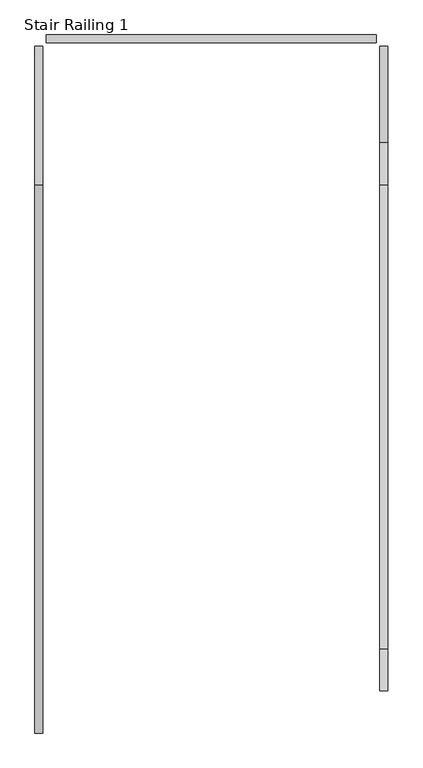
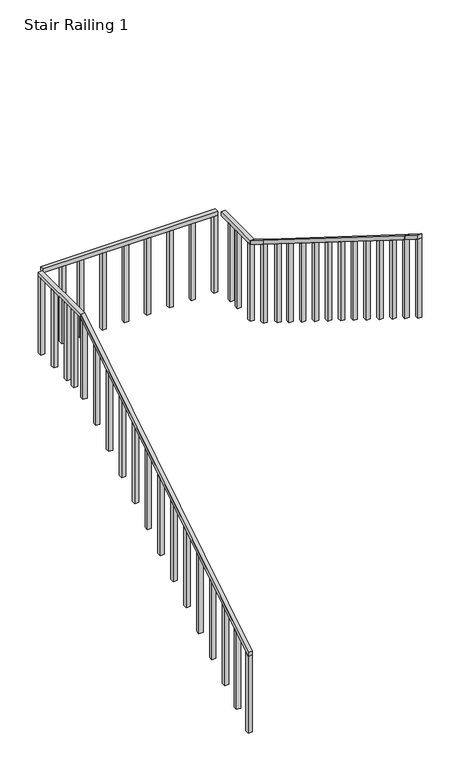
"""IFC4 building model written with IfcOpenShell, lengths in millimetres: railing geometry, Stair Railing 1."""

from ifc_helpers import new_model, si_unit, frame, origin, place, context, project, spatial, polyline, outline, extrude, source, transform, mapped, element, save


def stair_railing_1_f91c0f70(model_context):
    return source(origin(), model_context, "Body", "SweptSolid", [
        extrude(outline(polyline([(42823.1018942, 13727.2888889), (42823.1018942, 13676.4888889), (39190.9018942, 11401.7777778), (39190.9018942, 11452.5777778), (42823.1018942, 13727.2888889)])), frame((-115070.173517, 0.0, 0.0), z_axis=(1.0, 0.0, 0.0), x_axis=(0.0, 1.0, 0.0)), (0.0, 0.0, 1.0), 50.8),
        extrude(outline(polyline([(39241.7018942, 11433.5919192), (39241.7018942, 10385.7777778), (39190.9018942, 10385.7777778), (39190.9018942, 11401.7777778), (39241.7018942, 11433.5919192)])), frame((-115070.173517, 0.0, 0.0), z_axis=(1.0, 0.0, 0.0), x_axis=(0.0, 1.0, 0.0)), (0.0, 0.0, 1.0), 50.8),
        extrude(outline(polyline([(39495.7018942, 11592.6626263), (39495.7018942, 10544.8484848), (39444.9018942, 10544.8484848), (39444.9018942, 11560.8484848), (39495.7018942, 11592.6626263)])), frame((-115070.173517, 0.0, 0.0), z_axis=(1.0, 0.0, 0.0), x_axis=(0.0, 1.0, 0.0)), (0.0, 0.0, 1.0), 50.8),
        extrude(outline(polyline([(39749.7018942, 11751.7333333), (39749.7018942, 10703.9191919), (39698.9018942, 10703.9191919), (39698.9018942, 11719.9191919), (39749.7018942, 11751.7333333)])), frame((-115070.173517, 0.0, 0.0), z_axis=(1.0, 0.0, 0.0), x_axis=(0.0, 1.0, 0.0)), (0.0, 0.0, 1.0), 50.8),
        extrude(outline(polyline([(40029.1018942, 11926.7111111), (40029.1018942, 10878.8969697), (39978.3018942, 10878.8969697), (39978.3018942, 11894.8969697), (40029.1018942, 11926.7111111)])), frame((-115070.173517, 0.0, 0.0), z_axis=(1.0, 0.0, 0.0), x_axis=(0.0, 1.0, 0.0)), (0.0, 0.0, 1.0), 50.8),
        extrude(outline(polyline([(40308.5018942, 12101.6888889), (40308.5018942, 11053.8747475), (40257.7018942, 11053.8747475), (40257.7018942, 12069.8747475), (40308.5018942, 12101.6888889)])), frame((-115070.173517, 0.0, 0.0), z_axis=(1.0, 0.0, 0.0), x_axis=(0.0, 1.0, 0.0)), (0.0, 0.0, 1.0), 50.8),
        extrude(outline(polyline([(40587.9018942, 12276.6666667), (40587.9018942, 11228.8525253), (40537.1018942, 11228.8525253), (40537.1018942, 12244.8525253), (40587.9018942, 12276.6666667)])), frame((-115070.173517, 0.0, 0.0), z_axis=(1.0, 0.0, 0.0), x_axis=(0.0, 1.0, 0.0)), (0.0, 0.0, 1.0), 50.8),
        extrude(outline(polyline([(40867.3018942, 12451.6444444), (40867.3018942, 11403.830303), (40816.5018942, 11403.830303), (40816.5018942, 12419.830303), (40867.3018942, 12451.6444444)])), frame((-115070.173517, 0.0, 0.0), z_axis=(1.0, 0.0, 0.0), x_axis=(0.0, 1.0, 0.0)), (0.0, 0.0, 1.0), 50.8),
        extrude(outline(polyline([(41146.7018942, 12626.6222222), (41146.7018942, 11578.8080808), (41095.9018942, 11578.8080808), (41095.9018942, 12594.8080808), (41146.7018942, 12626.6222222)])), frame((-115070.173517, 0.0, 0.0), z_axis=(1.0, 0.0, 0.0), x_axis=(0.0, 1.0, 0.0)), (0.0, 0.0, 1.0), 50.8),
        extrude(outline(polyline([(41426.1018942, 12801.6), (41426.1018942, 11753.7858586), (41375.3018942, 11753.7858586), (41375.3018942, 12769.7858586), (41426.1018942, 12801.6)])), frame((-115070.173517, 0.0, 0.0), z_axis=(1.0, 0.0, 0.0), x_axis=(0.0, 1.0, 0.0)), (0.0, 0.0, 1.0), 50.8),
        extrude(outline(polyline([(41705.5018942, 12976.5777778), (41705.5018942, 11928.7636364), (41654.7018942, 11928.7636364), (41654.7018942, 12944.7636364), (41705.5018942, 12976.5777778)])), frame((-115070.173517, 0.0, 0.0), z_axis=(1.0, 0.0, 0.0), x_axis=(0.0, 1.0, 0.0)), (0.0, 0.0, 1.0), 50.8),
        extrude(outline(polyline([(41984.9018942, 13151.5555556), (41984.9018942, 12103.7414141), (41934.1018942, 12103.7414141), (41934.1018942, 13119.7414141), (41984.9018942, 13151.5555556)])), frame((-115070.173517, 0.0, 0.0), z_axis=(1.0, 0.0, 0.0), x_axis=(0.0, 1.0, 0.0)), (0.0, 0.0, 1.0), 50.8),
        extrude(outline(polyline([(42264.3018942, 13326.5333333), (42264.3018942, 12278.7191919), (42213.5018942, 12278.7191919), (42213.5018942, 13294.7191919), (42264.3018942, 13326.5333333)])), frame((-115070.173517, 0.0, 0.0), z_axis=(1.0, 0.0, 0.0), x_axis=(0.0, 1.0, 0.0)), (0.0, 0.0, 1.0), 50.8),
        extrude(outline(polyline([(42543.7018942, 13501.5111111), (42543.7018942, 12453.6969697), (42492.9018942, 12453.6969697), (42492.9018942, 13469.6969697), (42543.7018942, 13501.5111111)])), frame((-115070.173517, 0.0, 0.0), z_axis=(1.0, 0.0, 0.0), x_axis=(0.0, 1.0, 0.0)), (0.0, 0.0, 1.0), 50.8),
        extrude(outline(polyline([(42823.1018942, 13676.4888889), (42823.1018942, 12628.6747475), (42772.3018942, 12628.6747475), (42772.3018942, 13644.6747475), (42823.1018942, 13676.4888889)])), frame((-115070.173517, 0.0, 0.0), z_axis=(1.0, 0.0, 0.0), x_axis=(0.0, 1.0, 0.0)), (0.0, 0.0, 1.0), 50.8),
        extrude(outline(polyline([(-115070.173517, 43737.5018942), (-115019.373517, 43737.5018942), (-115019.373517, 42823.1018942), (-115070.173517, 42823.1018942), (-115070.173517, 43737.5018942)])), frame((0.0, 0.0, 13676.4888889), z_axis=(0.0, 0.0, 1.0), x_axis=(1.0, 0.0, 0.0)), (0.0, 0.0, 1.0), 50.8),
        extrude(outline(polyline([(-115019.373517, 42975.5018942), (-115070.173517, 42975.5018942), (-115070.173517, 43026.3018942), (-115019.373517, 43026.3018942), (-115019.373517, 42975.5018942)])), frame((0.0, 0.0, 12660.4888889), z_axis=(0.0, 0.0, 1.0), x_axis=(1.0, 0.0, 0.0)), (0.0, 0.0, 1.0), 1016.0),
        extrude(outline(polyline([(-115019.373517, 43127.9018942), (-115070.173517, 43127.9018942), (-115070.173517, 43178.7018942), (-115019.373517, 43178.7018942), (-115019.373517, 43127.9018942)])), frame((0.0, 0.0, 12660.4888889), z_axis=(0.0, 0.0, 1.0), x_axis=(1.0, 0.0, 0.0)), (0.0, 0.0, 1.0), 1016.0),
        extrude(outline(polyline([(-115019.373517, 43407.3018942), (-115070.173517, 43407.3018942), (-115070.173517, 43458.1018942), (-115019.373517, 43458.1018942), (-115019.373517, 43407.3018942)])), frame((0.0, 0.0, 12660.4888889), z_axis=(0.0, 0.0, 1.0), x_axis=(1.0, 0.0, 0.0)), (0.0, 0.0, 1.0), 1016.0),
        extrude(outline(polyline([(-115019.373517, 43686.7018942), (-115070.173517, 43686.7018942), (-115070.173517, 43737.5018942), (-115019.373517, 43737.5018942), (-115019.373517, 43686.7018942)])), frame((0.0, 0.0, 12660.4888889), z_axis=(0.0, 0.0, 1.0), x_axis=(1.0, 0.0, 0.0)), (0.0, 0.0, 1.0), 1016.0),
        extrude(outline(polyline([(-112810.6492148, 43813.7018942), (-112810.6492148, 43762.9018942), (-114993.973517, 43762.9018942), (-114993.973517, 43813.7018942), (-112810.6492148, 43813.7018942)])), frame((0.0, 0.0, 13676.4888889), z_axis=(0.0, 0.0, 1.0), x_axis=(1.0, 0.0, 0.0)), (0.0, 0.0, 1.0), 50.8),
        extrude(outline(polyline([(-114765.9113659, 43762.9018942), (-114765.9113659, 43813.7018942), (-114715.1113659, 43813.7018942), (-114715.1113659, 43762.9018942), (-114765.9113659, 43762.9018942)])), frame((0.0, 0.0, 12660.4888889), z_axis=(0.0, 0.0, 1.0), x_axis=(1.0, 0.0, 0.0)), (0.0, 0.0, 1.0), 1016.0),
        extrude(outline(polyline([(-114537.8492148, 43762.9018942), (-114537.8492148, 43813.7018942), (-114487.0492148, 43813.7018942), (-114487.0492148, 43762.9018942), (-114537.8492148, 43762.9018942)])), frame((0.0, 0.0, 12660.4888889), z_axis=(0.0, 0.0, 1.0), x_axis=(1.0, 0.0, 0.0)), (0.0, 0.0, 1.0), 1016.0),
        extrude(outline(polyline([(-114258.4492148, 43762.9018942), (-114258.4492148, 43813.7018942), (-114207.6492148, 43813.7018942), (-114207.6492148, 43762.9018942), (-114258.4492148, 43762.9018942)])), frame((0.0, 0.0, 12660.4888889), z_axis=(0.0, 0.0, 1.0), x_axis=(1.0, 0.0, 0.0)), (0.0, 0.0, 1.0), 1016.0),
        extrude(outline(polyline([(-113979.0492148, 43762.9018942), (-113979.0492148, 43813.7018942), (-113928.2492148, 43813.7018942), (-113928.2492148, 43762.9018942), (-113979.0492148, 43762.9018942)])), frame((0.0, 0.0, 12660.4888889), z_axis=(0.0, 0.0, 1.0), x_axis=(1.0, 0.0, 0.0)), (0.0, 0.0, 1.0), 1016.0),
        extrude(outline(polyline([(-113699.6492148, 43762.9018942), (-113699.6492148, 43813.7018942), (-113648.8492148, 43813.7018942), (-113648.8492148, 43762.9018942), (-113699.6492148, 43762.9018942)])), frame((0.0, 0.0, 12660.4888889), z_axis=(0.0, 0.0, 1.0), x_axis=(1.0, 0.0, 0.0)), (0.0, 0.0, 1.0), 1016.0),
        extrude(outline(polyline([(-113420.2492148, 43762.9018942), (-113420.2492148, 43813.7018942), (-113369.4492148, 43813.7018942), (-113369.4492148, 43762.9018942), (-113420.2492148, 43762.9018942)])), frame((0.0, 0.0, 12660.4888889), z_axis=(0.0, 0.0, 1.0), x_axis=(1.0, 0.0, 0.0)), (0.0, 0.0, 1.0), 1016.0),
        extrude(outline(polyline([(-113140.8492148, 43762.9018942), (-113140.8492148, 43813.7018942), (-113090.0492148, 43813.7018942), (-113090.0492148, 43762.9018942), (-113140.8492148, 43762.9018942)])), frame((0.0, 0.0, 12660.4888889), z_axis=(0.0, 0.0, 1.0), x_axis=(1.0, 0.0, 0.0)), (0.0, 0.0, 1.0), 1016.0),
        extrude(outline(polyline([(-112861.4492148, 43762.9018942), (-112861.4492148, 43813.7018942), (-112810.6492148, 43813.7018942), (-112810.6492148, 43762.9018942), (-112861.4492148, 43762.9018942)])), frame((0.0, 0.0, 12660.4888889), z_axis=(0.0, 0.0, 1.0), x_axis=(1.0, 0.0, 0.0)), (0.0, 0.0, 1.0), 1016.0),
        extrude(outline(polyline([(-112734.4492148, 43102.5018942), (-112785.2492148, 43102.5018942), (-112785.2492148, 43737.5018942), (-112734.4492148, 43737.5018942), (-112734.4492148, 43102.5018942)])), frame((0.0, 0.0, 13676.4888889), z_axis=(0.0, 0.0, 1.0), x_axis=(1.0, 0.0, 0.0)), (0.0, 0.0, 1.0), 50.8),
        extrude(outline(polyline([(-112785.2492148, 43585.1018942), (-112734.4492148, 43585.1018942), (-112734.4492148, 43534.3018942), (-112785.2492148, 43534.3018942), (-112785.2492148, 43585.1018942)])), frame((0.0, 0.0, 12660.4888889), z_axis=(0.0, 0.0, 1.0), x_axis=(1.0, 0.0, 0.0)), (0.0, 0.0, 1.0), 1016.0),
        extrude(outline(polyline([(-112785.2492148, 43432.7018942), (-112734.4492148, 43432.7018942), (-112734.4492148, 43381.9018942), (-112785.2492148, 43381.9018942), (-112785.2492148, 43432.7018942)])), frame((0.0, 0.0, 12660.4888889), z_axis=(0.0, 0.0, 1.0), x_axis=(1.0, 0.0, 0.0)), (0.0, 0.0, 1.0), 1016.0),
        extrude(outline(polyline([(-112785.2492148, 43153.3018942), (-112734.4492148, 43153.3018942), (-112734.4492148, 43102.5018942), (-112785.2492148, 43102.5018942), (-112785.2492148, 43153.3018942)])), frame((0.0, 0.0, 12660.4888889), z_axis=(0.0, 0.0, 1.0), x_axis=(1.0, 0.0, 0.0)), (0.0, 0.0, 1.0), 1016.0),
        extrude(outline(polyline([(42823.1018942, 13851.4666667), (42823.1018942, 13902.2666667), (43102.5018942, 13727.2888889), (43102.5018942, 13676.4888889), (42823.1018942, 13851.4666667)])), frame((-112785.2492148, 0.0, 0.0), z_axis=(1.0, 0.0, 0.0), x_axis=(0.0, 1.0, 0.0)), (0.0, 0.0, 1.0), 50.8),
        extrude(outline(polyline([(42873.9018942, 13819.6525253), (42873.9018942, 12803.6525253), (42823.1018942, 12803.6525253), (42823.1018942, 13851.4666667), (42873.9018942, 13819.6525253)])), frame((-112785.2492148, 0.0, 0.0), z_axis=(1.0, 0.0, 0.0), x_axis=(0.0, 1.0, 0.0)), (0.0, 0.0, 1.0), 50.8),
        extrude(outline(polyline([(39749.7018942, 15776.2222222), (39749.7018942, 15827.0222222), (42823.1018942, 13902.2666667), (42823.1018942, 13851.4666667), (39749.7018942, 15776.2222222)])), frame((-112785.2492148, 0.0, 0.0), z_axis=(1.0, 0.0, 0.0), x_axis=(0.0, 1.0, 0.0)), (0.0, 0.0, 1.0), 50.8),
        extrude(outline(polyline([(42569.1018942, 14010.5373737), (42569.1018942, 12994.5373737), (42518.3018942, 12994.5373737), (42518.3018942, 14042.3515152), (42569.1018942, 14010.5373737)])), frame((-112785.2492148, 0.0, 0.0), z_axis=(1.0, 0.0, 0.0), x_axis=(0.0, 1.0, 0.0)), (0.0, 0.0, 1.0), 50.8),
        extrude(outline(polyline([(42315.1018942, 14169.6080808), (42315.1018942, 13153.6080808), (42264.3018942, 13153.6080808), (42264.3018942, 14201.4222222), (42315.1018942, 14169.6080808)])), frame((-112785.2492148, 0.0, 0.0), z_axis=(1.0, 0.0, 0.0), x_axis=(0.0, 1.0, 0.0)), (0.0, 0.0, 1.0), 50.8),
        extrude(outline(polyline([(42035.7018942, 14344.5858586), (42035.7018942, 13328.5858586), (41984.9018942, 13328.5858586), (41984.9018942, 14376.4), (42035.7018942, 14344.5858586)])), frame((-112785.2492148, 0.0, 0.0), z_axis=(1.0, 0.0, 0.0), x_axis=(0.0, 1.0, 0.0)), (0.0, 0.0, 1.0), 50.8),
        extrude(outline(polyline([(41756.3018942, 14519.5636364), (41756.3018942, 13503.5636364), (41705.5018942, 13503.5636364), (41705.5018942, 14551.3777778), (41756.3018942, 14519.5636364)])), frame((-112785.2492148, 0.0, 0.0), z_axis=(1.0, 0.0, 0.0), x_axis=(0.0, 1.0, 0.0)), (0.0, 0.0, 1.0), 50.8),
        extrude(outline(polyline([(41476.9018942, 14694.5414141), (41476.9018942, 13678.5414141), (41426.1018942, 13678.5414141), (41426.1018942, 14726.3555556), (41476.9018942, 14694.5414141)])), frame((-112785.2492148, 0.0, 0.0), z_axis=(1.0, 0.0, 0.0), x_axis=(0.0, 1.0, 0.0)), (0.0, 0.0, 1.0), 50.8),
        extrude(outline(polyline([(41197.5018942, 14869.5191919), (41197.5018942, 13853.5191919), (41146.7018942, 13853.5191919), (41146.7018942, 14901.3333333), (41197.5018942, 14869.5191919)])), frame((-112785.2492148, 0.0, 0.0), z_axis=(1.0, 0.0, 0.0), x_axis=(0.0, 1.0, 0.0)), (0.0, 0.0, 1.0), 50.8),
        extrude(outline(polyline([(40918.1018942, 15044.4969697), (40918.1018942, 14028.4969697), (40867.3018942, 14028.4969697), (40867.3018942, 15076.3111111), (40918.1018942, 15044.4969697)])), frame((-112785.2492148, 0.0, 0.0), z_axis=(1.0, 0.0, 0.0), x_axis=(0.0, 1.0, 0.0)), (0.0, 0.0, 1.0), 50.8),
        extrude(outline(polyline([(40638.7018942, 15219.4747475), (40638.7018942, 14203.4747475), (40587.9018942, 14203.4747475), (40587.9018942, 15251.2888889), (40638.7018942, 15219.4747475)])), frame((-112785.2492148, 0.0, 0.0), z_axis=(1.0, 0.0, 0.0), x_axis=(0.0, 1.0, 0.0)), (0.0, 0.0, 1.0), 50.8),
        extrude(outline(polyline([(40359.3018942, 15394.4525253), (40359.3018942, 14378.4525253), (40308.5018942, 14378.4525253), (40308.5018942, 15426.2666667), (40359.3018942, 15394.4525253)])), frame((-112785.2492148, 0.0, 0.0), z_axis=(1.0, 0.0, 0.0), x_axis=(0.0, 1.0, 0.0)), (0.0, 0.0, 1.0), 50.8),
        extrude(outline(polyline([(40079.9018942, 15569.430303), (40079.9018942, 14553.430303), (40029.1018942, 14553.430303), (40029.1018942, 15601.2444444), (40079.9018942, 15569.430303)])), frame((-112785.2492148, 0.0, 0.0), z_axis=(1.0, 0.0, 0.0), x_axis=(0.0, 1.0, 0.0)), (0.0, 0.0, 1.0), 50.8),
        extrude(outline(polyline([(39800.5018942, 15744.4080808), (39800.5018942, 14728.4080808), (39749.7018942, 14728.4080808), (39749.7018942, 15776.2222222), (39800.5018942, 15744.4080808)])), frame((-112785.2492148, 0.0, 0.0), z_axis=(1.0, 0.0, 0.0), x_axis=(0.0, 1.0, 0.0)), (0.0, 0.0, 1.0), 50.8),
        extrude(outline(polyline([(39470.3018942, 15951.2), (39470.3018942, 16002.0), (39749.7018942, 15827.0222222), (39749.7018942, 15776.2222222), (39470.3018942, 15951.2)])), frame((-112785.2492148, 0.0, 0.0), z_axis=(1.0, 0.0, 0.0), x_axis=(0.0, 1.0, 0.0)), (0.0, 0.0, 1.0), 50.8),
        extrude(outline(polyline([(39521.1018942, 15919.3858586), (39521.1018942, 14903.3858586), (39470.3018942, 14903.3858586), (39470.3018942, 15951.2), (39521.1018942, 15919.3858586)])), frame((-112785.2492148, 0.0, 0.0), z_axis=(1.0, 0.0, 0.0), x_axis=(0.0, 1.0, 0.0)), (0.0, 0.0, 1.0), 50.8),
    ])


if __name__ == "__main__":
    model = new_model("IFC4")
    model_context = context("Model", 3, world=origin())
    ifc_project = project(units=[si_unit("LENGTHUNIT", "METRE", prefix="MILLI")], contexts=[model_context])
    site = spatial("IfcSite", under=ifc_project)
    building = spatial("IfcBuilding", under=site)
    placement = place(None, origin())
    stair_railing_1_shape = stair_railing_1_f91c0f70(model_context)
    element("IfcRailing", 1, ObjectType="Stair Railing 1", at=placement, inside=building, context=model_context, shape_type="MappedRepresentation", body=[
        mapped(stair_railing_1_shape, transform((0.0, 0.0, 0.0), x_axis=(1.0, 0.0, 0.0), y_axis=(0.0, 1.0, 0.0), z_axis=(0.0, 0.0, 1.0))),
    ])
    save(model, "model.ifc")
